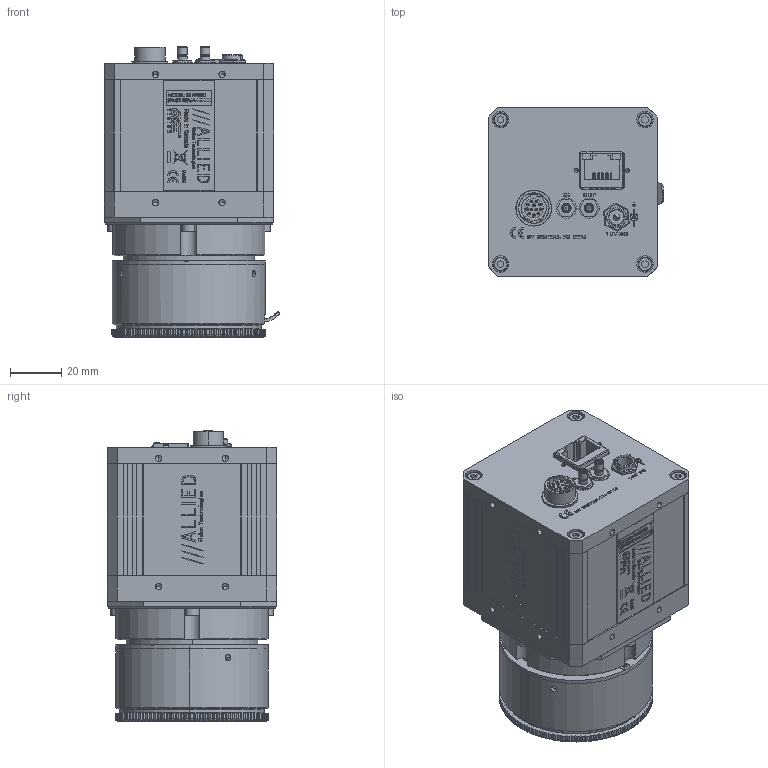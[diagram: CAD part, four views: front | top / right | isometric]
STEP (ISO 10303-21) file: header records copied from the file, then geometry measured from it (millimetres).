
FILE_DESCRIPTION (( 'STEP AP214' ), '1' );
FILE_NAME ('GE4900C.STEP', '2013-07-31T22:19:55', ( '' ), ( '' ), 'SwSTEP 2.0', 'SolidWorks 2013', '' );
FILE_SCHEMA (( 'AUTOMOTIVE_DESIGN' ));
Length unit declared in the file: millimetre
Products named in the file (48): 110113A-FMOUNT ADAPTER PLATE; 740068AA-GE4900C LABEL PRINT; 110052A-FMOUNT ADAPTER; 440003-IR CUT FILTER 50MM SQUARE; 140000-AMPHENOL 903-10408-1; 140068-SCREW FLAT HEAD M2x4 SS; 140058-SCREW SOCKET HEAD CAP M3x10 SS BLACK; 260010-HIROSE HR10A-10R-12SB; 140035-NIKON 54341 TENSION RING; 140034-SWITCHCRAFT P10149 WITH WIRE; 140035-NIKON 54341 SPRING; 110057B COVER GE LARGE FORMAT WITH LOGO_Finished; 140034-SWITCHCRAFT P10149; 140035-NIKON 54341 SCREW; 140039-SCREW SOCKET HEAD CAP M3x6 SS BLACK; 270006-JUMPER WIRE 18MM LONG; 110112A-TEFLON INSERT 0.125IN DIA 0.57IN LENGTH; 260010-HIROSE HR10A-10R-12SB WASHER; 110058A BACKPLATE GE LARGE FORMAT; 100124AA GE4900C FRONT ASSY; GE4900C; 260014-SWITCHCRAFT PC712A; 110059AB FRONTPLATE GE LARGE FORMAT; 260010-HIROSE HR10A-10R-12SB NUT; 220113-KODAK KAI-16000 COLOR; 140002-KEYSTONE 349; KODAK KAI-16000 WINDOW; 260009-AMPHENOL 903-406J-51R; KODAK KAI-16000 BODY; 100000AA-CV SMB GROUNDING ASSEMBLY; 200061AA GE4900 SENSOR PCB ASSY; 140001-AMPHENOL 903-10409-1; 140016-PEM KFS2-M2; 100114A-FMOUNT FRONT ASSY_REV B; 270006-JUMPER WIRE MODIFIED; 110062AA-CCD GASKET GE LARGE FORMAT; 140035-NIKON 54341 MAIN RING; 260014-SWITCHCRAFT PC712A NUT; 140017-SCREW PAN M2x4 SS; 140035-NIKON 54341 TAB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
Assembly tree (77 placements, depth 5):
  GE4900C
    140039-SCREW SOCKET HEAD CAP M3x6 SS BLACK  x4
    110057B COVER GE LARGE FORMAT WITH LOGO_Finished
    140058-SCREW SOCKET HEAD CAP M3x10 SS BLACK  x8
    440003-IR CUT FILTER 50MM SQUARE
    740068AA-GE4900C LABEL PRINT
    740031B-GE SERIES LABEL
    100117AA CAMERA BACK ASSY GE LARGE FORMAT - ASSEMBLED
      200031B-A GE INTERFACE PCB ASSY
        260029 BELFUSE 0826-1C1T-23
      100116A-CAMERA BACKPLATE ASSY GE LARGE FORMAT
        260014-SWITCHCRAFT PC712A NUT
        100000AA-CV SMB GROUNDING ASSEMBLY  x2
          270006-JUMPER WIRE MODIFIED
          140001-AMPHENOL 903-10409-1
        260009-AMPHENOL 903-406J-51R  x2
        140002-KEYSTONE 349  x4
        260010-HIROSE HR10A-10R-12SB NUT
        260014-SWITCHCRAFT PC712A
        110058A BACKPLATE GE LARGE FORMAT
        260010-HIROSE HR10A-10R-12SB WASHER
        140034-SWITCHCRAFT P10149 WITH WIRE
          270006-JUMPER WIRE 18MM LONG
          140034-SWITCHCRAFT P10149
        260010-HIROSE HR10A-10R-12SB
        140000-AMPHENOL 903-10408-1  x2
    110060AB-FMOUNT BASE GE LARGE FORMAT
    100124AA GE4900C FRONT ASSY
      140017-SCREW PAN M2x4 SS  x4
      110062AA-CCD GASKET GE LARGE FORMAT
      200061AA GE4900 SENSOR PCB ASSY
        140016-PEM KFS2-M2  x4
      220113-KODAK KAI-16000 COLOR
        KODAK KAI-16000 BODY
        KODAK KAI-16000 WINDOW
      110059AB FRONTPLATE GE LARGE FORMAT
    100114A-FMOUNT FRONT ASSY_REV B
      110112A-TEFLON INSERT 0.125IN DIA 0.57IN LENGTH  x3
      140035-NIKON 54341 SCREW  x3
      140035-NIKON 54341 SPRING
      140035-NIKON 54341 TENSION RING
      140068-SCREW FLAT HEAD M2x4 SS  x3
      110052A-FMOUNT ADAPTER
      110113A-FMOUNT ADAPTER PLATE
      140033-SCREW SET M3x3 SS  x3
      140036 NIKON BF-1A FMOUNT CAP
      140035-NIKON 54341 TAB
      140035-NIKON 54341 MAIN RING
Bounding box: 68.63 x 66.16 x 113.31 mm (x, y, z)
Volume: 145158.5 mm3; surface area: 143835.8 mm2
Topology: 111 solids, 111 shells, 5391 faces, 13963 edges, 9156 vertices
Faces by surface type: plane 3095, cylinder 1143, bspline 944, cone 209
Entity records: 226386 total; most frequent: CARTESIAN_POINT 67725, ORIENTED_EDGE 23448, DIRECTION 19145, EDGE_CURVE 11724, LINE 7763, VECTOR 7763, VERTEX_POINT 7744, AXIS2_PLACEMENT_3D 5691
